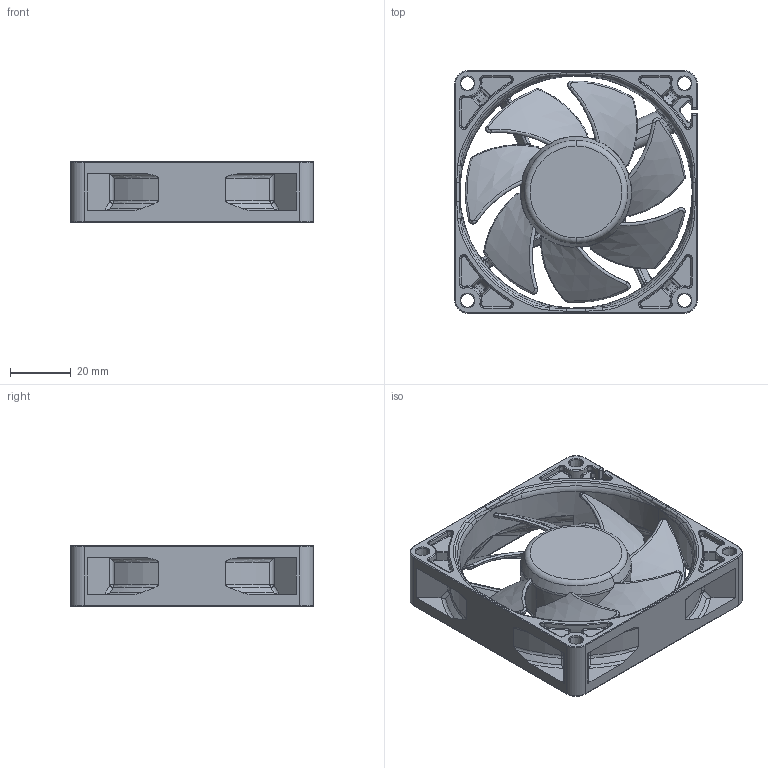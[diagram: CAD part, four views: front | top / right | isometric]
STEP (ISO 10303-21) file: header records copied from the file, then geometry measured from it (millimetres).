
FILE_DESCRIPTION (( 'STEP AP203' ), '1' );
FILE_NAME ('8020WFA_RIBBED.STEP', '2019-05-09T03:00:15', ( '' ), ( '' ), 'SwSTEP 2.0', 'SolidWorks 2017', '' );
FILE_SCHEMA (( 'CONFIG_CONTROL_DESIGN' ));
Products named in the file (1): 8020WFA_RIBBED
Bounding box: 80 x 80 x 20 mm (x, y, z)
Volume: 46749.4 mm3; surface area: 29458.5 mm2
Topology: 1 solids, 1 shells, 1101 faces, 2752 edges, 1605 vertices
Faces by surface type: bspline 342, cylinder 265, torus 255, plane 160, cone 60, sphere 19
Entity records: 42407 total; most frequent: CARTESIAN_POINT 18793, ORIENTED_EDGE 5386, DIRECTION 4532, EDGE_CURVE 2693, AXIS2_PLACEMENT_3D 1994, VERTEX_POINT 1605, CIRCLE 1234, EDGE_LOOP 1128
